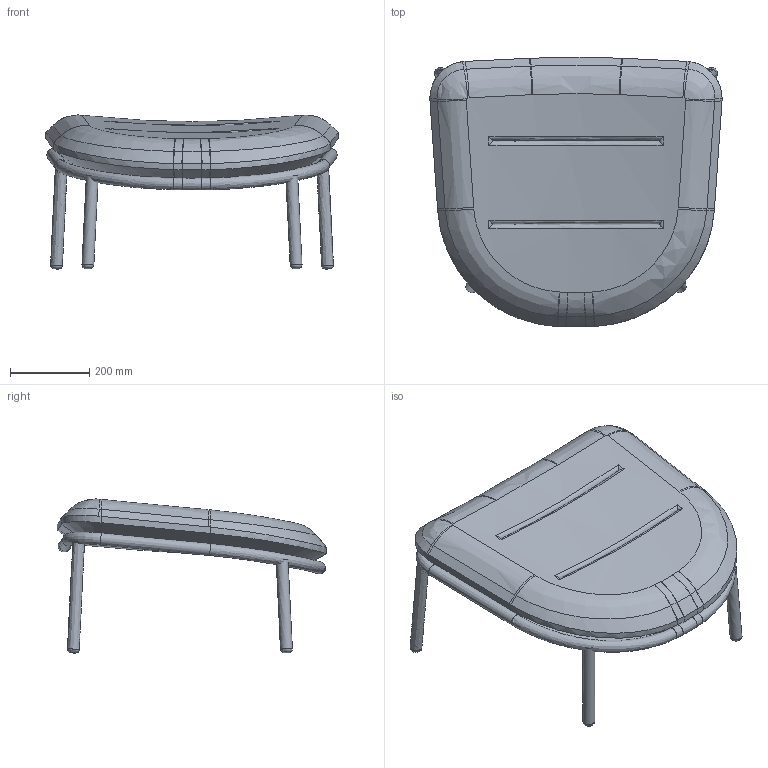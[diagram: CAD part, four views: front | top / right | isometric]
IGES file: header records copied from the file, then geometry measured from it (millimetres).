
Global section: file name: VincentSheppard_Kodo_FR; native system: unknown; preprocessor: unknown; author: unknown; organization: unknown; date: 20190924.082235; units: millimetre
Bounding box: 736.92 x 680.08 x 388.6 mm (x, y, z)
Volume: 40954707.7 mm3; surface area: 2108392 mm2
Topology: 7 solids, 7 shells, 152 faces, 362 edges, 224 vertices
Faces by surface type: bspline 152
